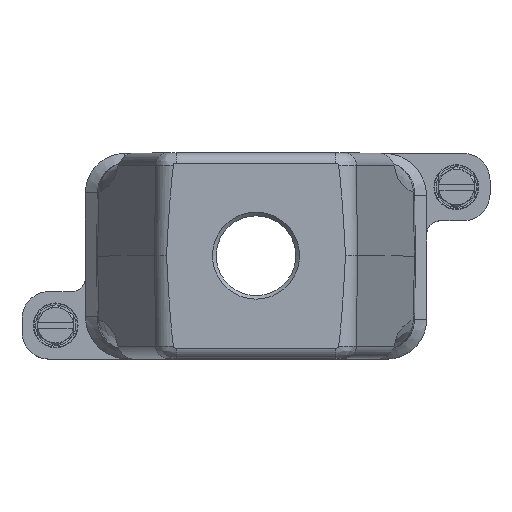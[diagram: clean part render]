
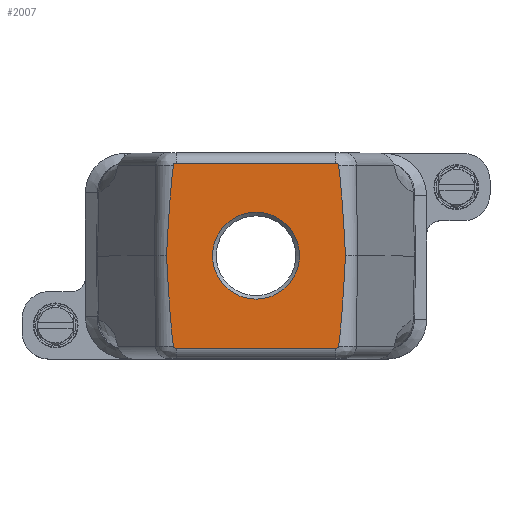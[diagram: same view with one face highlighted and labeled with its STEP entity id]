
A CAD part, top view. The second image highlights one B-rep face of the part: STEP entity #2007.
In plain terms, the highlighted planar face has unit normal (0, 0, 1).
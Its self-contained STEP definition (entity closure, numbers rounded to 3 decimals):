
#1415=ELLIPSE('',#11267,343.823,6.);
#1418=ELLIPSE('',#11271,343.823,6.);
#1425=ELLIPSE('',#11289,343.823,6.);
#1427=ELLIPSE('',#11292,343.823,6.);
#1542=FACE_BOUND('',#3165,.T.);
#1543=FACE_BOUND('',#3166,.T.);
#2007=ADVANCED_FACE('',(#1542,#1543),#2284,.T.);
#2284=PLANE('',#11831);
#3165=EDGE_LOOP('',(#5234));
#3166=EDGE_LOOP('',(#5235,#5236,#5237,#5238,#5239,#5240,#5241,#5242,#5243,
#5244));
#5234=ORIENTED_EDGE('',*,*,#7281,.T.);
#5235=ORIENTED_EDGE('',*,*,#6313,.F.);
#5236=ORIENTED_EDGE('',*,*,#6320,.F.);
#5237=ORIENTED_EDGE('',*,*,#6327,.F.);
#5238=ORIENTED_EDGE('',*,*,#6334,.F.);
#5239=ORIENTED_EDGE('',*,*,#6340,.F.);
#5240=ORIENTED_EDGE('',*,*,#6337,.F.);
#5241=ORIENTED_EDGE('',*,*,#6329,.F.);
#5242=ORIENTED_EDGE('',*,*,#6323,.F.);
#5243=ORIENTED_EDGE('',*,*,#6315,.F.);
#5244=ORIENTED_EDGE('',*,*,#6309,.F.);
#5579=VERTEX_POINT('',#15667);
#5580=VERTEX_POINT('',#15669);
#5582=VERTEX_POINT('',#15675);
#5584=VERTEX_POINT('',#15696);
#5588=VERTEX_POINT('',#15722);
#5590=VERTEX_POINT('',#15761);
#5592=VERTEX_POINT('',#15767);
#5594=VERTEX_POINT('',#15788);
#5597=VERTEX_POINT('',#15813);
#5600=VERTEX_POINT('',#15853);
#6186=VERTEX_POINT('',#21304);
#6309=EDGE_CURVE('',#5579,#5580,#1415,.T.);
#6313=EDGE_CURVE('',#5582,#5579,#1418,.T.);
#6315=EDGE_CURVE('',#5580,#5584,#7933,.T.);
#6320=EDGE_CURVE('',#5588,#5582,#7934,.T.);
#6323=EDGE_CURVE('',#5584,#5590,#9102,.T.);
#6327=EDGE_CURVE('',#5592,#5588,#9104,.T.);
#6329=EDGE_CURVE('',#5590,#5594,#7935,.T.);
#6334=EDGE_CURVE('',#5597,#5592,#7936,.T.);
#6337=EDGE_CURVE('',#5594,#5600,#1425,.T.);
#6340=EDGE_CURVE('',#5600,#5597,#1427,.T.);
#7281=EDGE_CURVE('',#6186,#6186,#7615,.T.);
#7615=CIRCLE('',#11830,12.27);
#7933=B_SPLINE_CURVE_WITH_KNOTS('',3,(#15680,#15681,#15682,#15683,#15684,
#15685,#15686,#15687,#15688,#15689,#15690,#15691,#15692,#15693,#15694,#15695),
 .UNSPECIFIED.,.F.,.F.,(4,3,3,3,3,4),(0.,0.187,0.372,
0.621,0.936,1.),.UNSPECIFIED.);
#7934=B_SPLINE_CURVE_WITH_KNOTS('',3,(#15723,#15724,#15725,#15726,#15727,
#15728,#15729,#15730,#15731,#15732,#15733,#15734,#15735,#15736,#15737,#15738),
 .UNSPECIFIED.,.F.,.F.,(4,3,3,3,3,4),(0.,0.257,0.516,
0.729,0.903,1.),.UNSPECIFIED.);
#7935=B_SPLINE_CURVE_WITH_KNOTS('',3,(#15772,#15773,#15774,#15775,#15776,
#15777,#15778,#15779,#15780,#15781,#15782,#15783,#15784,#15785,#15786,#15787),
 .UNSPECIFIED.,.F.,.F.,(4,3,3,3,3,4),(0.,0.257,0.516,
0.729,0.903,1.),.UNSPECIFIED.);
#7936=B_SPLINE_CURVE_WITH_KNOTS('',3,(#15815,#15816,#15817,#15818,#15819,
#15820,#15821,#15822,#15823,#15824,#15825,#15826,#15827,#15828,#15829,#15830),
 .UNSPECIFIED.,.F.,.F.,(4,3,3,3,3,4),(0.,0.187,0.372,
0.621,0.936,1.),.UNSPECIFIED.);
#9102=LINE('',#15760,#9768);
#9104=LINE('',#15769,#9770);
#9768=VECTOR('',#12127,1.);
#9770=VECTOR('',#12135,1.);
#11267=AXIS2_PLACEMENT_3D('',#15668,#12101,#12102);
#11271=AXIS2_PLACEMENT_3D('',#15677,#12110,#12111);
#11289=AXIS2_PLACEMENT_3D('',#15852,#12151,#12152);
#11292=AXIS2_PLACEMENT_3D('',#15858,#12158,#12159);
#11830=AXIS2_PLACEMENT_3D('',#21303,#13751,#13752);
#11831=AXIS2_PLACEMENT_3D('',#21305,#13753,#13754);
#12101=DIRECTION('',(0.,0.,-1.));
#12102=DIRECTION('',(0.013,1.,0.));
#12110=DIRECTION('',(0.,0.,-1.));
#12111=DIRECTION('',(-0.013,1.,0.));
#12127=DIRECTION('',(1.,0.,0.));
#12135=DIRECTION('',(-1.,0.,0.));
#12151=DIRECTION('',(0.,0.,-1.));
#12152=DIRECTION('',(-0.013,1.,0.));
#12158=DIRECTION('',(0.,0.,-1.));
#12159=DIRECTION('',(0.013,1.,0.));
#13751=DIRECTION('',(0.,0.,-1.));
#13752=DIRECTION('',(1.,0.,0.));
#13753=DIRECTION('',(0.,0.,1.));
#13754=DIRECTION('',(1.,0.,0.));
#15667=CARTESIAN_POINT('',(-25.244,0.,81.95));
#15668=CARTESIAN_POINT('',(-27.066,-315.147,81.95));
#15669=CARTESIAN_POINT('',(-23.305,25.567,81.95));
#15675=CARTESIAN_POINT('',(-23.305,-25.567,81.95));
#15677=CARTESIAN_POINT('',(-27.066,315.147,81.95));
#15680=CARTESIAN_POINT('',(-23.305,25.567,81.95));
#15681=CARTESIAN_POINT('',(-23.296,25.631,81.95));
#15682=CARTESIAN_POINT('',(-23.272,25.695,81.95));
#15683=CARTESIAN_POINT('',(-23.239,25.751,81.95));
#15684=CARTESIAN_POINT('',(-23.206,25.807,81.95));
#15685=CARTESIAN_POINT('',(-23.163,25.858,81.95));
#15686=CARTESIAN_POINT('',(-23.115,25.901,81.95));
#15687=CARTESIAN_POINT('',(-23.05,25.959,81.95));
#15688=CARTESIAN_POINT('',(-22.973,26.005,81.95));
#15689=CARTESIAN_POINT('',(-22.892,26.038,81.95));
#15690=CARTESIAN_POINT('',(-22.791,26.081,81.95));
#15691=CARTESIAN_POINT('',(-22.681,26.105,81.95));
#15692=CARTESIAN_POINT('',(-22.571,26.112,81.95));
#15693=CARTESIAN_POINT('',(-22.549,26.114,81.95));
#15694=CARTESIAN_POINT('',(-22.526,26.114,81.95));
#15695=CARTESIAN_POINT('',(-22.504,26.114,81.95));
#15696=CARTESIAN_POINT('',(-22.504,26.114,81.95));
#15722=CARTESIAN_POINT('',(-22.504,-26.114,81.95));
#15723=CARTESIAN_POINT('',(-22.504,-26.114,81.95));
#15724=CARTESIAN_POINT('',(-22.594,-26.114,81.95));
#15725=CARTESIAN_POINT('',(-22.685,-26.103,81.95));
#15726=CARTESIAN_POINT('',(-22.772,-26.08,81.95));
#15727=CARTESIAN_POINT('',(-22.859,-26.056,81.95));
#15728=CARTESIAN_POINT('',(-22.944,-26.02,81.95));
#15729=CARTESIAN_POINT('',(-23.02,-25.972,81.95));
#15730=CARTESIAN_POINT('',(-23.083,-25.932,81.95));
#15731=CARTESIAN_POINT('',(-23.141,-25.882,81.95));
#15732=CARTESIAN_POINT('',(-23.188,-25.825,81.95));
#15733=CARTESIAN_POINT('',(-23.227,-25.778,81.95));
#15734=CARTESIAN_POINT('',(-23.258,-25.724,81.95));
#15735=CARTESIAN_POINT('',(-23.279,-25.667,81.95));
#15736=CARTESIAN_POINT('',(-23.291,-25.635,81.95));
#15737=CARTESIAN_POINT('',(-23.3,-25.601,81.95));
#15738=CARTESIAN_POINT('',(-23.305,-25.567,81.95));
#15760=CARTESIAN_POINT('',(0.,26.114,81.95));
#15761=CARTESIAN_POINT('',(22.504,26.114,81.95));
#15767=CARTESIAN_POINT('',(22.504,-26.114,81.95));
#15769=CARTESIAN_POINT('',(-48.1,-26.114,81.95));
#15772=CARTESIAN_POINT('',(22.504,26.114,81.95));
#15773=CARTESIAN_POINT('',(22.594,26.114,81.95));
#15774=CARTESIAN_POINT('',(22.685,26.103,81.95));
#15775=CARTESIAN_POINT('',(22.772,26.08,81.95));
#15776=CARTESIAN_POINT('',(22.859,26.056,81.95));
#15777=CARTESIAN_POINT('',(22.944,26.02,81.95));
#15778=CARTESIAN_POINT('',(23.02,25.972,81.95));
#15779=CARTESIAN_POINT('',(23.083,25.932,81.95));
#15780=CARTESIAN_POINT('',(23.141,25.882,81.95));
#15781=CARTESIAN_POINT('',(23.188,25.825,81.95));
#15782=CARTESIAN_POINT('',(23.227,25.778,81.95));
#15783=CARTESIAN_POINT('',(23.258,25.724,81.95));
#15784=CARTESIAN_POINT('',(23.279,25.667,81.95));
#15785=CARTESIAN_POINT('',(23.291,25.635,81.95));
#15786=CARTESIAN_POINT('',(23.3,25.601,81.95));
#15787=CARTESIAN_POINT('',(23.305,25.567,81.95));
#15788=CARTESIAN_POINT('',(23.305,25.567,81.95));
#15813=CARTESIAN_POINT('',(23.305,-25.567,81.95));
#15815=CARTESIAN_POINT('',(23.305,-25.567,81.95));
#15816=CARTESIAN_POINT('',(23.296,-25.631,81.95));
#15817=CARTESIAN_POINT('',(23.272,-25.695,81.95));
#15818=CARTESIAN_POINT('',(23.239,-25.751,81.95));
#15819=CARTESIAN_POINT('',(23.206,-25.807,81.95));
#15820=CARTESIAN_POINT('',(23.163,-25.858,81.95));
#15821=CARTESIAN_POINT('',(23.115,-25.901,81.95));
#15822=CARTESIAN_POINT('',(23.05,-25.959,81.95));
#15823=CARTESIAN_POINT('',(22.973,-26.005,81.95));
#15824=CARTESIAN_POINT('',(22.892,-26.038,81.95));
#15825=CARTESIAN_POINT('',(22.791,-26.081,81.95));
#15826=CARTESIAN_POINT('',(22.681,-26.105,81.95));
#15827=CARTESIAN_POINT('',(22.571,-26.112,81.95));
#15828=CARTESIAN_POINT('',(22.549,-26.114,81.95));
#15829=CARTESIAN_POINT('',(22.526,-26.114,81.95));
#15830=CARTESIAN_POINT('',(22.504,-26.114,81.95));
#15852=CARTESIAN_POINT('',(27.066,-315.147,81.95));
#15853=CARTESIAN_POINT('',(25.244,0.,81.95));
#15858=CARTESIAN_POINT('',(27.066,315.147,81.95));
#21303=CARTESIAN_POINT('',(0.,0.,81.95));
#21304=CARTESIAN_POINT('',(12.27,0.,81.95));
#21305=CARTESIAN_POINT('',(50.,-30.,81.95));
